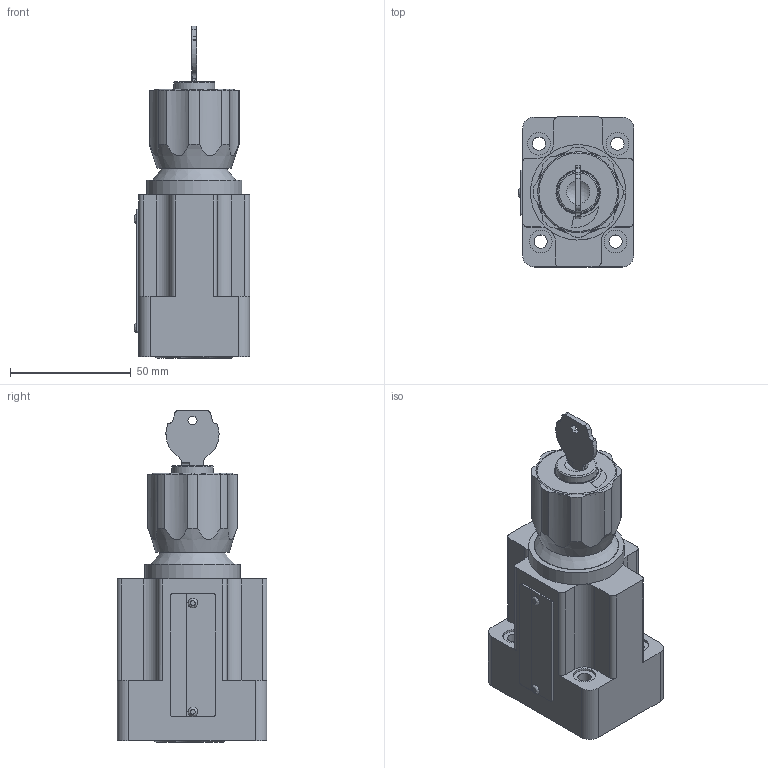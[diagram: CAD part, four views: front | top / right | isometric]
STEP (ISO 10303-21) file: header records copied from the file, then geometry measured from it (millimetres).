
FILE_DESCRIPTION(/* description */ (''),/* implementation_level */ '2;1');
FILE_NAME(/* name */ '2FRM6-76-3XJ-M调速阀.prt.stp',/* time_stamp */ '2022-03-30T19:55:36+08:00',/* author */ (''),/* organization */ (''),/* preprocessor_version */ 'ST-DEVELOPER v16.7',/* originating_system */ 'SIEMENS PLM Software NX 12.0',/* authorisation */ '');
FILE_SCHEMA (('AUTOMOTIVE_DESIGN { 1 0 10303 214 3 1 1 1 }'));
Length unit declared in the file: millimetre
Products named in the file (1): 2FRM6-76-3XJ-M调速阀
Bounding box: 47.8 x 62.04 x 137.42 mm (x, y, z)
Volume: 200018.2 mm3; surface area: 50187 mm2
Topology: 18 solids, 23 shells, 482 faces, 1208 edges, 795 vertices
Faces by surface type: plane 209, cylinder 164, extrusion 49, torus 26, bspline 17, cone 14, sphere 3
Full cylindrical faces by diameter (mm): 1.8 x6, 2.2 x2, 3 x1, 3.2 x1, 5 x1, 5.5 x4, 6 x4, 9.4 x4, 12 x1, 12.2 x3, 14.5 x1, 17 x1, 18 x4, 21.8 x2, 25 x1, 26 x2, 26.5 x1, 27.5 x1, 33.5 x1, 34.7 x1
Entity records: 27099 total; most frequent: CARTESIAN_POINT 15023, ORIENTED_EDGE 2208, DIRECTION 2121, EDGE_CURVE 1104, VERTEX_POINT 771, AXIS2_PLACEMENT_3D 755, VECTOR 611, EDGE_LOOP 604
